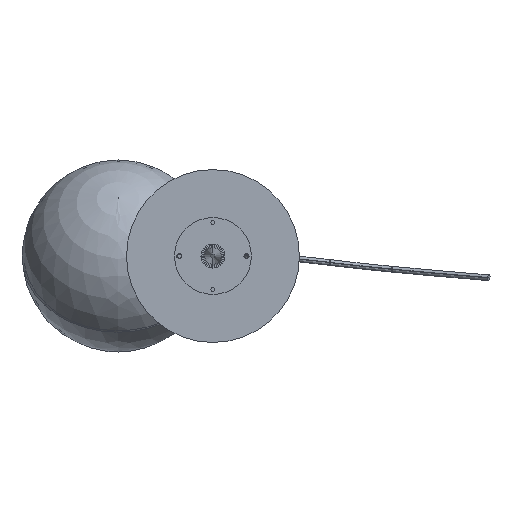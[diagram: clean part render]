
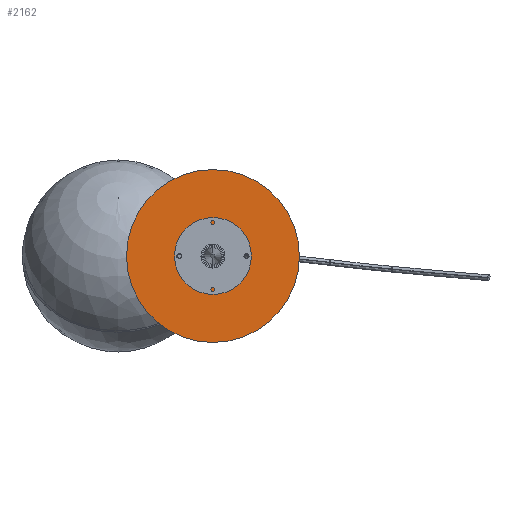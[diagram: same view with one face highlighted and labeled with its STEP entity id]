
A CAD part, front view. The second image highlights one B-rep face of the part: STEP entity #2162.
In plain terms, the highlighted planar face has unit normal (0, -1, 0) as drawn and (0, 1, 0) by its records, which use the part's own axes.
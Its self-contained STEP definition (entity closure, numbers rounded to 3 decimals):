
#163 = DIRECTION ( 'NONE',  ( 0., 1., 0. ) ) ;
#204 = DIRECTION ( 'NONE',  ( 0., 0., 1. ) ) ;
#275 = EDGE_CURVE ( 'NONE', #2908, #7333, #4561, .T. ) ;
#376 = VERTEX_POINT ( 'NONE', #8138 ) ;
#524 = DIRECTION ( 'NONE',  ( 0., 0., 1. ) ) ;
#684 = CARTESIAN_POINT ( 'NONE',  ( 0., 2., -90. ) ) ;
#686 = AXIS2_PLACEMENT_3D ( 'NONE', #6065, #163, #204 ) ;
#819 = CIRCLE ( 'NONE', #3684, 2.75 ) ;
#991 = EDGE_LOOP ( 'NONE', ( #7236, #2992 ) ) ;
#1079 = FACE_BOUND ( 'NONE', #991, .T. ) ;
#1363 = CARTESIAN_POINT ( 'NONE',  ( -35., 2., 0. ) ) ;
#1373 = AXIS2_PLACEMENT_3D ( 'NONE', #1784, #4939, #2257 ) ;
#1552 = CARTESIAN_POINT ( 'NONE',  ( 0., 2., 0. ) ) ;
#1617 = VERTEX_POINT ( 'NONE', #4492 ) ;
#1744 = DIRECTION ( 'NONE',  ( 0., 0., 1. ) ) ;
#1751 = DIRECTION ( 'NONE',  ( 0., 0., 1. ) ) ;
#1784 = CARTESIAN_POINT ( 'NONE',  ( 0., 2., 0. ) ) ;
#1915 = CARTESIAN_POINT ( 'NONE',  ( 35., 2., 2.75 ) ) ;
#1960 = AXIS2_PLACEMENT_3D ( 'NONE', #1552, #4114, #6817 ) ;
#2002 = CARTESIAN_POINT ( 'NONE',  ( 0., 2., 90. ) ) ;
#2162 = ADVANCED_FACE ( 'NONE', ( #2244, #3089, #7742, #1079 ), #6392, .T. ) ;
#2244 = FACE_BOUND ( 'NONE', #5532, .T. ) ;
#2257 = DIRECTION ( 'NONE',  ( 0., 0., 1. ) ) ;
#2364 = CIRCLE ( 'NONE', #1960, 7. ) ;
#2406 = ORIENTED_EDGE ( 'NONE', *, *, #7176, .T. ) ;
#2464 = EDGE_CURVE ( 'NONE', #7565, #376, #2364, .T. ) ;
#2908 = VERTEX_POINT ( 'NONE', #5459 ) ;
#2992 = ORIENTED_EDGE ( 'NONE', *, *, #8232, .F. ) ;
#3011 = CARTESIAN_POINT ( 'NONE',  ( 0., 2., 0. ) ) ;
#3015 = CARTESIAN_POINT ( 'NONE',  ( -35., 2., 2.75 ) ) ;
#3089 = FACE_BOUND ( 'NONE', #3390, .T. ) ;
#3390 = EDGE_LOOP ( 'NONE', ( #8135, #7044 ) ) ;
#3684 = AXIS2_PLACEMENT_3D ( 'NONE', #4986, #7589, #1744 ) ;
#3693 = DIRECTION ( 'NONE',  ( 0., 1., 0. ) ) ;
#4114 = DIRECTION ( 'NONE',  ( 0., -1., 0. ) ) ;
#4356 = AXIS2_PLACEMENT_3D ( 'NONE', #7103, #6468, #7144 ) ;
#4492 = CARTESIAN_POINT ( 'NONE',  ( -35., 2., -2.75 ) ) ;
#4561 = CIRCLE ( 'NONE', #8100, 2.75 ) ;
#4579 = VERTEX_POINT ( 'NONE', #684 ) ;
#4709 = AXIS2_PLACEMENT_3D ( 'NONE', #3011, #3693, #524 ) ;
#4767 = EDGE_CURVE ( 'NONE', #376, #7565, #6137, .T. ) ;
#4939 = DIRECTION ( 'NONE',  ( 0., 1., 0. ) ) ;
#4986 = CARTESIAN_POINT ( 'NONE',  ( -35., 2., 0. ) ) ;
#5054 = CIRCLE ( 'NONE', #1373, 90. ) ;
#5081 = CARTESIAN_POINT ( 'NONE',  ( 0., 2., 0. ) ) ;
#5123 = DIRECTION ( 'NONE',  ( 0., 1., 0. ) ) ;
#5174 = EDGE_CURVE ( 'NONE', #1617, #7527, #819, .T. ) ;
#5459 = CARTESIAN_POINT ( 'NONE',  ( 35., 2., -2.75 ) ) ;
#5532 = EDGE_LOOP ( 'NONE', ( #6069, #6361 ) ) ;
#5633 = DIRECTION ( 'NONE',  ( 0., 1., 0. ) ) ;
#6000 = EDGE_CURVE ( 'NONE', #7333, #2908, #8043, .T. ) ;
#6065 = CARTESIAN_POINT ( 'NONE',  ( 35., 2., 0. ) ) ;
#6069 = ORIENTED_EDGE ( 'NONE', *, *, #2464, .T. ) ;
#6137 = CIRCLE ( 'NONE', #4356, 7. ) ;
#6361 = ORIENTED_EDGE ( 'NONE', *, *, #4767, .T. ) ;
#6392 = PLANE ( 'NONE',  #4709 ) ;
#6468 = DIRECTION ( 'NONE',  ( 0., -1., 0. ) ) ;
#6613 = DIRECTION ( 'NONE',  ( 0., 0., 1. ) ) ;
#6817 = DIRECTION ( 'NONE',  ( 0., 0., 1. ) ) ;
#6818 = AXIS2_PLACEMENT_3D ( 'NONE', #1363, #5123, #7179 ) ;
#6949 = CARTESIAN_POINT ( 'NONE',  ( 0., 2., 7. ) ) ;
#7044 = ORIENTED_EDGE ( 'NONE', *, *, #6000, .F. ) ;
#7103 = CARTESIAN_POINT ( 'NONE',  ( 0., 2., 0. ) ) ;
#7144 = DIRECTION ( 'NONE',  ( 0., 0., 1. ) ) ;
#7176 = EDGE_CURVE ( 'NONE', #8123, #4579, #5054, .T. ) ;
#7179 = DIRECTION ( 'NONE',  ( 0., 0., 1. ) ) ;
#7204 = CARTESIAN_POINT ( 'NONE',  ( 35., 2., 0. ) ) ;
#7215 = CIRCLE ( 'NONE', #6818, 2.75 ) ;
#7236 = ORIENTED_EDGE ( 'NONE', *, *, #5174, .F. ) ;
#7239 = ORIENTED_EDGE ( 'NONE', *, *, #7975, .T. ) ;
#7333 = VERTEX_POINT ( 'NONE', #1915 ) ;
#7349 = AXIS2_PLACEMENT_3D ( 'NONE', #5081, #5633, #1751 ) ;
#7527 = VERTEX_POINT ( 'NONE', #3015 ) ;
#7565 = VERTEX_POINT ( 'NONE', #6949 ) ;
#7589 = DIRECTION ( 'NONE',  ( 0., 1., 0. ) ) ;
#7670 = EDGE_LOOP ( 'NONE', ( #7239, #2406 ) ) ;
#7742 = FACE_OUTER_BOUND ( 'NONE', #7670, .T. ) ;
#7748 = CIRCLE ( 'NONE', #7349, 90. ) ;
#7975 = EDGE_CURVE ( 'NONE', #4579, #8123, #7748, .T. ) ;
#8043 = CIRCLE ( 'NONE', #686, 2.75 ) ;
#8100 = AXIS2_PLACEMENT_3D ( 'NONE', #7204, #8382, #6613 ) ;
#8123 = VERTEX_POINT ( 'NONE', #2002 ) ;
#8135 = ORIENTED_EDGE ( 'NONE', *, *, #275, .F. ) ;
#8138 = CARTESIAN_POINT ( 'NONE',  ( 0., 2., -7. ) ) ;
#8232 = EDGE_CURVE ( 'NONE', #7527, #1617, #7215, .T. ) ;
#8382 = DIRECTION ( 'NONE',  ( 0., 1., 0. ) ) ;
